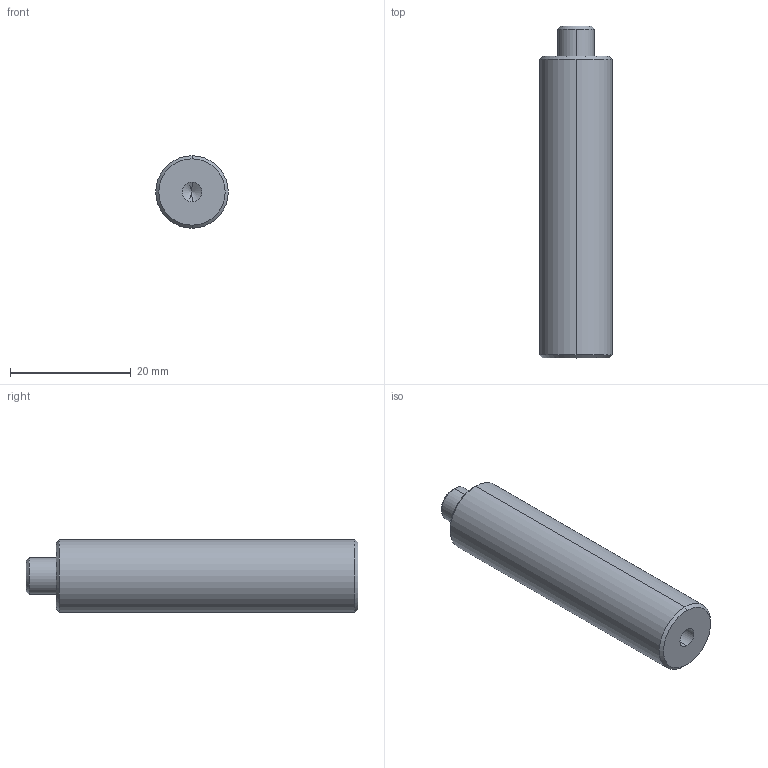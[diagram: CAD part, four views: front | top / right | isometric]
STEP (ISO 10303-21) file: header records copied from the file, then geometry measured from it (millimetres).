
FILE_DESCRIPTION (( 'STEP AP203' ), '1' );
FILE_NAME ('(STEP)M-PDJ12-50.STEP', '2020-04-01T09:06:21', ( '' ), ( '' ), 'SwSTEP 2.0', 'SolidWorks 2019', '' );
FILE_SCHEMA (( 'CONFIG_CONTROL_DESIGN' ));
Length unit declared in the file: millimetre
Products named in the file (1): (STEP)M-PDJ12-50
Bounding box: 12 x 55 x 12 mm (x, y, z)
Volume: 5695.6 mm3; surface area: 2283 mm2
Topology: 1 solids, 1 shells, 17 faces, 34 edges, 19 vertices
Faces by surface type: cone 8, cylinder 6, plane 3
Entity records: 505 total; most frequent: DIRECTION 86, CARTESIAN_POINT 69, ORIENTED_EDGE 64, AXIS2_PLACEMENT_3D 36, EDGE_CURVE 32, EDGE_LOOP 19, VERTEX_POINT 19, CIRCLE 18
